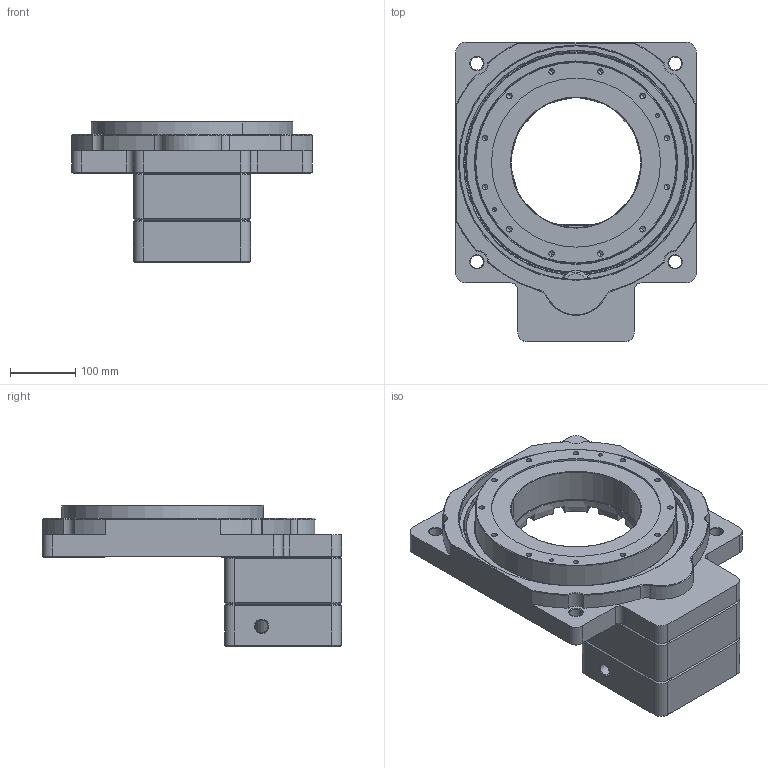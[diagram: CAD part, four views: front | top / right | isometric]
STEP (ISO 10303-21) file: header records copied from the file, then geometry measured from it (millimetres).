
FILE_DESCRIPTION (( 'STEP AP203' ), '1' );
FILE_NAME ('300.STEP', '2022-04-26T07:47:40', ( '' ), ( '' ), 'SwSTEP 2.0', 'SolidWorks 2020', '' );
FILE_SCHEMA (( 'CONFIG_CONTROL_DESIGN' ));
Length unit declared in the file: millimetre
Products named in the file (10): 300-10-08; 300-01; 300-10-06; M10-35_CB10-35; 300; 6313; 300-10-05; 300-10-02; 300Y(1)(1).step; 300-10-07
Assembly tree (10 placements, depth 2):
  300
    300-01
    300Y(1)(1).step
    300-10-02
    300-10-07
    300-10-06
    300-10-08
    6313  x2
    300-10-05
    M10-35_CB10-35
Bounding box: 370 x 460 x 217 mm (x, y, z)
Volume: 9959813.6 mm3; surface area: 1252752.2 mm2
Topology: 34 solids, 34 shells, 1063 faces, 2601 edges, 1550 vertices
Faces by surface type: cylinder 385, cone 336, plane 219, torus 79, sphere 44
Entity records: 30253 total; most frequent: DIRECTION 5433, CARTESIAN_POINT 5394, ORIENTED_EDGE 4614, EDGE_CURVE 2307, AXIS2_PLACEMENT_3D 2199, VERTEX_POINT 1428, EDGE_LOOP 1201, CIRCLE 1175
